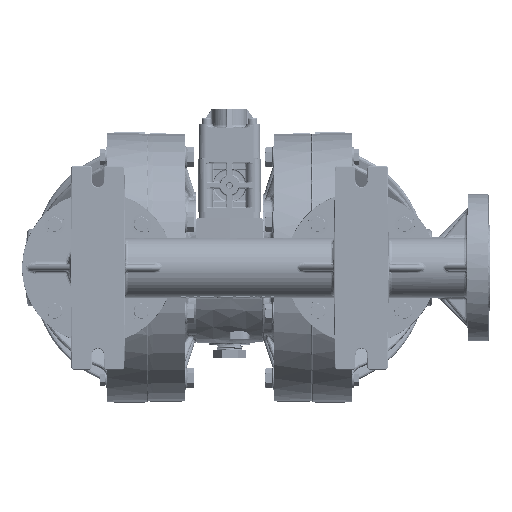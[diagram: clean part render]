
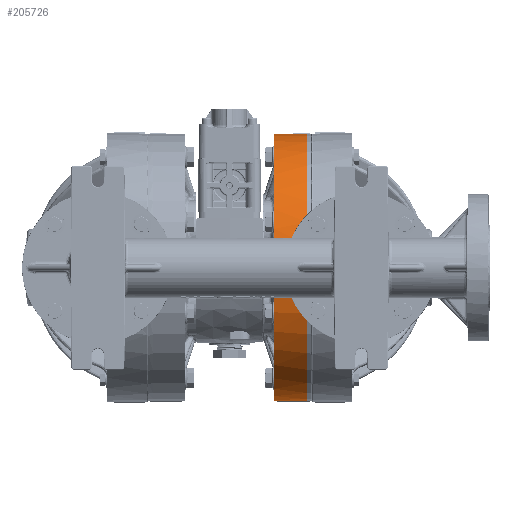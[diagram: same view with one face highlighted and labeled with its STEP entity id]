
A CAD part, front view. The second image highlights one B-rep face of the part: STEP entity #205726.
In plain terms, the highlighted conical face has half-angle 0.5 degrees and reference radius 136.029 mm.
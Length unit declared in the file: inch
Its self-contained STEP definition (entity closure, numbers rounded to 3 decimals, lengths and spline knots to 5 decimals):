
#7728 = CARTESIAN_POINT ( 'NONE',  ( 1.907, 0., -5.3437 ) ) ;
#13719 = CARTESIAN_POINT ( 'NONE',  ( 1.792, -3.5306, -4.02512 ) ) ;
#16723 = CARTESIAN_POINT ( 'NONE',  ( 1.792, -1.38527, 5.17182 ) ) ;
#22744 = CARTESIAN_POINT ( 'NONE',  ( 1.792, -5.06982, 1.7215 ) ) ;
#27789 = CARTESIAN_POINT ( 'NONE',  ( 1.907, -0.02629, 5.34363 ) ) ;
#41450 = CARTESIAN_POINT ( 'NONE',  ( 2.30533, -0.02774, 5.3471 ) ) ;
#45935 = EDGE_CURVE ( 'NONE', #530186, #117445, #171887, .T. ) ;
#59276 = CARTESIAN_POINT ( 'NONE',  ( 1.792, -0.69935, -5.30826 ) ) ;
#59676 = CARTESIAN_POINT ( 'NONE',  ( 1.792, 0., 5.3427 ) ) ;
#63694 = CIRCLE ( 'NONE', #122187, 5.35413 ) ;
#65253 = CARTESIAN_POINT ( 'NONE',  ( 1.792, -2.6775, -4.63656 ) ) ;
#95765 = CARTESIAN_POINT ( 'NONE',  ( 1.907, -0.00883, -5.3437 ) ) ;
#95917 = CARTESIAN_POINT ( 'NONE',  ( 2.70367, -0.02919, 5.35057 ) ) ;
#96997 = EDGE_CURVE ( 'NONE', #117445, #406658, #393041, .T. ) ;
#104721 = CARTESIAN_POINT ( 'NONE',  ( 2.70367, -0.02939, -5.35057 ) ) ;
#107764 = CARTESIAN_POINT ( 'NONE',  ( 1.792, -4.80219, 2.36762 ) ) ;
#110748 = CARTESIAN_POINT ( 'NONE',  ( 1.792, -5.30826, -0.69935 ) ) ;
#113743 = CARTESIAN_POINT ( 'NONE',  ( 1.792, -4.80219, -2.36762 ) ) ;
#116749 = CARTESIAN_POINT ( 'NONE',  ( 1.792, -4.02512, -3.5306 ) ) ;
#117445 = VERTEX_POINT ( 'NONE', #224348 ) ;
#122187 = AXIS2_PLACEMENT_3D ( 'NONE', #307846, #395728, #547070 ) ;
#136487 = CARTESIAN_POINT ( 'NONE',  ( 1.907, -0.02649, -5.34363 ) ) ;
#140634 = ORIENTED_EDGE ( 'NONE', *, *, #45935, .T. ) ;
#141930 = DIRECTION ( 'NONE',  ( 0., 0., -1. ) ) ;
#150249 = CARTESIAN_POINT ( 'NONE',  ( 1.792, -5.06982, -1.7215 ) ) ;
#153231 = CARTESIAN_POINT ( 'NONE',  ( 1.792, -5.3427, 0.34968 ) ) ;
#155285 = CARTESIAN_POINT ( 'NONE',  ( 1.907, -0.00876, 5.3437 ) ) ;
#156250 = CARTESIAN_POINT ( 'NONE',  ( 1.792, -4.02512, 3.5306 ) ) ;
#160929 = ORIENTED_EDGE ( 'NONE', *, *, #562831, .T. ) ;
#162217 = CARTESIAN_POINT ( 'NONE',  ( 1.792, -5.30826, 0.69935 ) ) ;
#171887 = B_SPLINE_CURVE_WITH_KNOTS ( 'NONE', 3,
 ( #596234, #95917, #41450, #374792 ),
 .UNSPECIFIED., .F., .F.,
 ( 4, 4 ),
 ( 0., 1. ),
 .UNSPECIFIED. ) ;
#192687 = CARTESIAN_POINT ( 'NONE',  ( 1.907, -0.02649, -5.34363 ) ) ;
#195718 = CARTESIAN_POINT ( 'NONE',  ( 1.792, -3.25899, 4.24802 ) ) ;
#204714 = CARTESIAN_POINT ( 'NONE',  ( 1.792, 0., -5.3427 ) ) ;
#205726 = ADVANCED_FACE ( 'NONE', ( #372335 ), #539774, .T. ) ;
#207208 = B_SPLINE_CURVE_WITH_KNOTS ( 'NONE', 3,
 ( #7728, #95765, #380602, #192687 ),
 .UNSPECIFIED., .F., .F.,
 ( 4, 4 ),
 ( 0., 1. ),
 .UNSPECIFIED. ) ;
#207868 = VERTEX_POINT ( 'NONE', #59676 ) ;
#224348 = CARTESIAN_POINT ( 'NONE',  ( 1.907, -0.02629, 5.34363 ) ) ;
#236842 = EDGE_CURVE ( 'NONE', #422264, #507557, #207208, .T. ) ;
#241011 = CARTESIAN_POINT ( 'NONE',  ( 3.102, -0.03064, 5.35404 ) ) ;
#250185 = CARTESIAN_POINT ( 'NONE',  ( 1.792, -2.36762, -4.80219 ) ) ;
#274420 = DIRECTION ( 'NONE',  ( 1., 0., 0.009 ) ) ;
#275261 = ORIENTED_EDGE ( 'NONE', *, *, #236842, .T. ) ;
#278155 = LINE ( 'NONE', #414558, #376496 ) ;
#295711 = CARTESIAN_POINT ( 'NONE',  ( 1.792, -4.24802, -3.25899 ) ) ;
#298712 = CARTESIAN_POINT ( 'NONE',  ( 1.792, -0.34968, -5.3427 ) ) ;
#299430 = EDGE_CURVE ( 'NONE', #346140, #422264, #278155, .T. ) ;
#301740 = CARTESIAN_POINT ( 'NONE',  ( 1.792, -1.7215, -5.06982 ) ) ;
#307846 = CARTESIAN_POINT ( 'NONE',  ( 3.102, 0., 0. ) ) ;
#335160 = CARTESIAN_POINT ( 'NONE',  ( 1.792, -5.17182, 1.38527 ) ) ;
#341121 = CARTESIAN_POINT ( 'NONE',  ( 1.792, -4.63656, 2.6775 ) ) ;
#343163 = CARTESIAN_POINT ( 'NONE',  ( 1.907, -0.01753, 5.34368 ) ) ;
#344065 = CARTESIAN_POINT ( 'NONE',  ( 3.102, -0.03084, -5.35404 ) ) ;
#344110 = CARTESIAN_POINT ( 'NONE',  ( 1.792, -1.38527, -5.17182 ) ) ;
#346140 = VERTEX_POINT ( 'NONE', #506866 ) ;
#346447 = ORIENTED_EDGE ( 'NONE', *, *, #299430, .T. ) ;
#347119 = CARTESIAN_POINT ( 'NONE',  ( 1.792, -0.69935, 5.30826 ) ) ;
#353822 = CARTESIAN_POINT ( 'NONE',  ( 3.102, -0.03084, -5.35404 ) ) ;
#354520 = VECTOR ( 'NONE', #274420, 39.37008 ) ;
#361432 = VERTEX_POINT ( 'NONE', #353822 ) ;
#372073 = DIRECTION ( 'NONE',  ( 1., 0., -0.009 ) ) ;
#372335 = FACE_OUTER_BOUND ( 'NONE', #464341, .T. ) ;
#374792 = CARTESIAN_POINT ( 'NONE',  ( 1.907, -0.02629, 5.34363 ) ) ;
#376496 = VECTOR ( 'NONE', #372073, 39.37008 ) ;
#380602 = CARTESIAN_POINT ( 'NONE',  ( 1.907, -0.01766, -5.34368 ) ) ;
#380630 = CARTESIAN_POINT ( 'NONE',  ( 1.792, -4.24802, 3.25899 ) ) ;
#386542 = CARTESIAN_POINT ( 'NONE',  ( 1.907, -0.02649, -5.34363 ) ) ;
#393041 = B_SPLINE_CURVE_WITH_KNOTS ( 'NONE', 3,
 ( #27789, #343163, #155285, #570581 ),
 .UNSPECIFIED., .F., .F.,
 ( 4, 4 ),
 ( 0., 1. ),
 .UNSPECIFIED. ) ;
#395728 = DIRECTION ( 'NONE',  ( -1., 0., 0. ) ) ;
#403766 = B_SPLINE_CURVE_WITH_KNOTS ( 'NONE', 3,
 ( #386542, #565494, #104721, #344065 ),
 .UNSPECIFIED., .F., .F.,
 ( 4, 4 ),
 ( 0., 1. ),
 .UNSPECIFIED. ) ;
#406658 = VERTEX_POINT ( 'NONE', #416401 ) ;
#407895 = LINE ( 'NONE', #495934, #354520 ) ;
#413813 = AXIS2_PLACEMENT_3D ( 'NONE', #554240, #557232, #141930 ) ;
#414558 = CARTESIAN_POINT ( 'NONE',  ( 3.25647, 0., -5.35548 ) ) ;
#416401 = CARTESIAN_POINT ( 'NONE',  ( 1.907, 0., 5.3437 ) ) ;
#422264 = VERTEX_POINT ( 'NONE', #570803 ) ;
#426503 = ORIENTED_EDGE ( 'NONE', *, *, #521723, .T. ) ;
#429122 = CARTESIAN_POINT ( 'NONE',  ( 1.792, -2.36762, 4.80219 ) ) ;
#432109 = CARTESIAN_POINT ( 'NONE',  ( 1.792, 0., 5.3427 ) ) ;
#440335 = ORIENTED_EDGE ( 'NONE', *, *, #96997, .T. ) ;
#448445 = B_SPLINE_CURVE_WITH_KNOTS ( 'NONE', 3,
 ( #432109, #577511, #347119, #16723, #568526, #429122, #520049, #195718, #571531, #156250, #380630, #341121, #107764, #22744, #335160, #162217, #153231, #526032, #110748, #565544, #150249, #113743, #474648, #295711, #116749, #13719, #532029, #65253, #250185, #301740, #344110, #59276, #298712, #204714 ),
 .UNSPECIFIED., .F., .F.,
 ( 4, 2, 2, 2, 2, 2, 2, 2, 2, 2, 2, 2, 2, 2, 2, 2, 4 ),
 ( 0., 0.0625, 0.125, 0.1875, 0.25, 0.3125, 0.375, 0.4375, 0.5, 0.5625, 0.625, 0.6875, 0.75, 0.8125, 0.875, 0.9375, 1. ),
 .UNSPECIFIED. ) ;
#464341 = EDGE_LOOP ( 'NONE', ( #550239, #160929, #346447, #275261, #426503, #589572, #140634, #440335 ) ) ;
#474648 = CARTESIAN_POINT ( 'NONE',  ( 1.792, -4.63656, -2.6775 ) ) ;
#486619 = EDGE_CURVE ( 'NONE', #361432, #530186, #63694, .T. ) ;
#488042 = EDGE_CURVE ( 'NONE', #207868, #406658, #407895, .T. ) ;
#495934 = CARTESIAN_POINT ( 'NONE',  ( 3.25647, 0., 5.35548 ) ) ;
#506866 = CARTESIAN_POINT ( 'NONE',  ( 1.792, 0., -5.3427 ) ) ;
#507557 = VERTEX_POINT ( 'NONE', #136487 ) ;
#520049 = CARTESIAN_POINT ( 'NONE',  ( 1.792, -2.6775, 4.63656 ) ) ;
#521723 = EDGE_CURVE ( 'NONE', #507557, #361432, #403766, .T. ) ;
#526032 = CARTESIAN_POINT ( 'NONE',  ( 1.792, -5.3427, -0.34968 ) ) ;
#530186 = VERTEX_POINT ( 'NONE', #241011 ) ;
#532029 = CARTESIAN_POINT ( 'NONE',  ( 1.792, -3.25899, -4.24802 ) ) ;
#539774 = CONICAL_SURFACE ( 'NONE', #413813, 5.35548, 0.009 ) ;
#547070 = DIRECTION ( 'NONE',  ( 0., 0., -1. ) ) ;
#550239 = ORIENTED_EDGE ( 'NONE', *, *, #488042, .F. ) ;
#554240 = CARTESIAN_POINT ( 'NONE',  ( 3.25647, 0., 0. ) ) ;
#557232 = DIRECTION ( 'NONE',  ( 1., 0., 0. ) ) ;
#562831 = EDGE_CURVE ( 'NONE', #207868, #346140, #448445, .T. ) ;
#565494 = CARTESIAN_POINT ( 'NONE',  ( 2.30533, -0.02794, -5.3471 ) ) ;
#565544 = CARTESIAN_POINT ( 'NONE',  ( 1.792, -5.17182, -1.38527 ) ) ;
#568526 = CARTESIAN_POINT ( 'NONE',  ( 1.792, -1.7215, 5.06982 ) ) ;
#570581 = CARTESIAN_POINT ( 'NONE',  ( 1.907, 0., 5.3437 ) ) ;
#570803 = CARTESIAN_POINT ( 'NONE',  ( 1.907, 0., -5.3437 ) ) ;
#571531 = CARTESIAN_POINT ( 'NONE',  ( 1.792, -3.5306, 4.02512 ) ) ;
#577511 = CARTESIAN_POINT ( 'NONE',  ( 1.792, -0.34968, 5.3427 ) ) ;
#589572 = ORIENTED_EDGE ( 'NONE', *, *, #486619, .T. ) ;
#596234 = CARTESIAN_POINT ( 'NONE',  ( 3.102, -0.03064, 5.35404 ) ) ;
